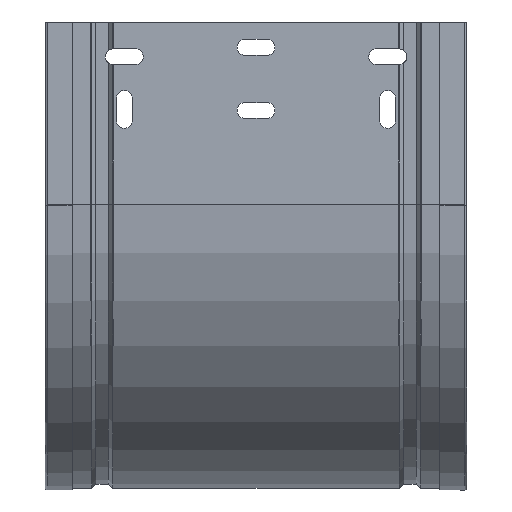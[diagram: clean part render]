
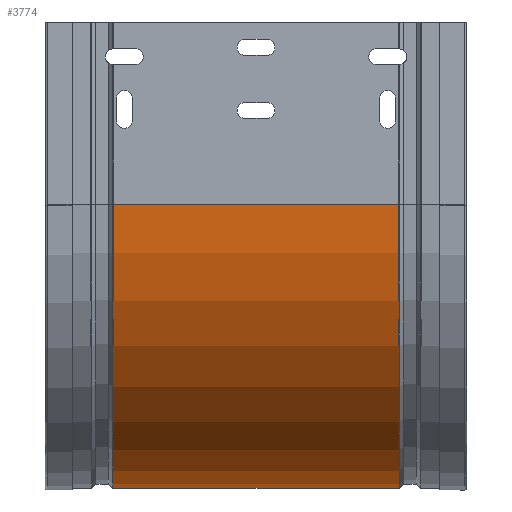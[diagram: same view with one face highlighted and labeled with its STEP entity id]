
A CAD part, front view. The second image highlights one B-rep face of the part: STEP entity #3774.
In plain terms, the highlighted cylindrical face has radius 134.8 mm (diameter 269.6 mm), a partial arc.
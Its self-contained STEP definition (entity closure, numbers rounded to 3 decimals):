
#382 = DIRECTION ( 'NONE',  ( 1., 0., 0. ) ) ;
#703 = ORIENTED_EDGE ( 'NONE', *, *, #4150, .F. ) ;
#754 = AXIS2_PLACEMENT_3D ( 'NONE', #1938, #3052, #5667 ) ;
#951 = CIRCLE ( 'NONE', #2706, 134.8 ) ;
#952 = VERTEX_POINT ( 'NONE', #3244 ) ;
#1115 = EDGE_CURVE ( 'NONE', #1734, #4890, #4586, .T. ) ;
#1134 = VECTOR ( 'NONE', #4515, 1000. ) ;
#1195 = FACE_OUTER_BOUND ( 'NONE', #4504, .T. ) ;
#1548 = DIRECTION ( 'NONE',  ( 0., 0., -1. ) ) ;
#1606 = CARTESIAN_POINT ( 'NONE',  ( -31., 134., -86.4 ) ) ;
#1657 = CARTESIAN_POINT ( 'NONE',  ( -31., -0.8, -86.4 ) ) ;
#1734 = VERTEX_POINT ( 'NONE', #5237 ) ;
#1938 = CARTESIAN_POINT ( 'NONE',  ( 0., 134., -86.4 ) ) ;
#1947 = AXIS2_PLACEMENT_3D ( 'NONE', #5808, #3494, #5873 ) ;
#2158 = ORIENTED_EDGE ( 'NONE', *, *, #1115, .T. ) ;
#2222 = LINE ( 'NONE', #3183, #1134 ) ;
#2367 = CARTESIAN_POINT ( 'NONE',  ( -167., 134., -221.2 ) ) ;
#2392 = CYLINDRICAL_SURFACE ( 'NONE', #754, 134.8 ) ;
#2706 = AXIS2_PLACEMENT_3D ( 'NONE', #1606, #4848, #1548 ) ;
#3052 = DIRECTION ( 'NONE',  ( 1., 0., 0. ) ) ;
#3183 = CARTESIAN_POINT ( 'NONE',  ( -31., -0.8, -86.4 ) ) ;
#3244 = CARTESIAN_POINT ( 'NONE',  ( -31., 134., -221.2 ) ) ;
#3396 = VECTOR ( 'NONE', #382, 1000. ) ;
#3494 = DIRECTION ( 'NONE',  ( 1., 0., 0. ) ) ;
#3774 = ADVANCED_FACE ( 'NONE', ( #1195 ), #2392, .T. ) ;
#3913 = EDGE_CURVE ( 'NONE', #4890, #952, #4554, .T. ) ;
#4100 = ORIENTED_EDGE ( 'NONE', *, *, #4255, .F. ) ;
#4150 = EDGE_CURVE ( 'NONE', #5142, #952, #951, .T. ) ;
#4255 = EDGE_CURVE ( 'NONE', #1734, #5142, #2222, .T. ) ;
#4504 = EDGE_LOOP ( 'NONE', ( #4100, #2158, #5795, #703 ) ) ;
#4515 = DIRECTION ( 'NONE',  ( 1., 0., 0. ) ) ;
#4554 = LINE ( 'NONE', #5412, #3396 ) ;
#4586 = CIRCLE ( 'NONE', #1947, 134.8 ) ;
#4848 = DIRECTION ( 'NONE',  ( 1., 0., 0. ) ) ;
#4890 = VERTEX_POINT ( 'NONE', #2367 ) ;
#5142 = VERTEX_POINT ( 'NONE', #1657 ) ;
#5237 = CARTESIAN_POINT ( 'NONE',  ( -167., -0.8, -86.4 ) ) ;
#5412 = CARTESIAN_POINT ( 'NONE',  ( -31., 134., -221.2 ) ) ;
#5667 = DIRECTION ( 'NONE',  ( 0., 0., -1. ) ) ;
#5795 = ORIENTED_EDGE ( 'NONE', *, *, #3913, .T. ) ;
#5808 = CARTESIAN_POINT ( 'NONE',  ( -167., 134., -86.4 ) ) ;
#5873 = DIRECTION ( 'NONE',  ( 0., 0., -1. ) ) ;
